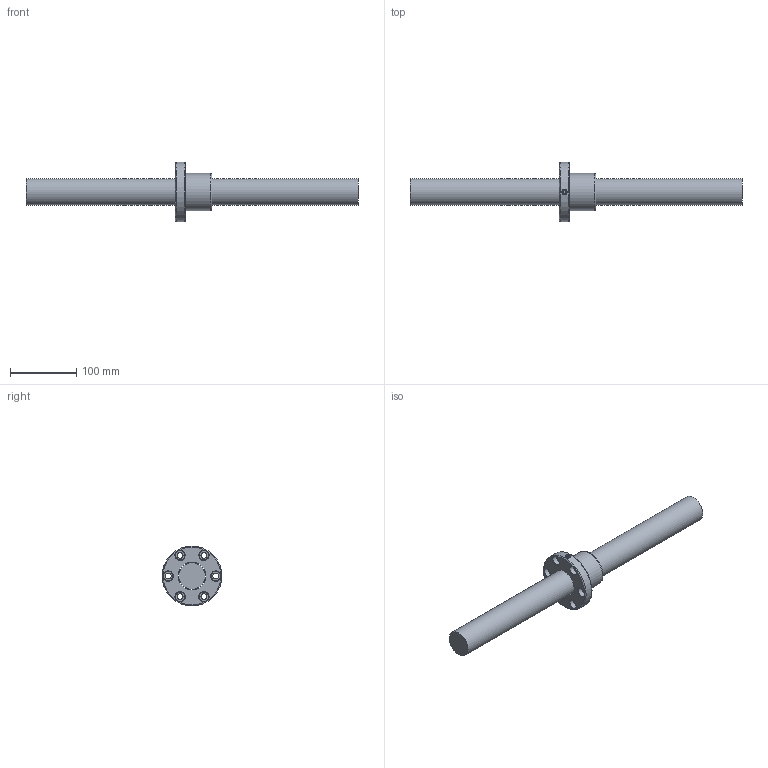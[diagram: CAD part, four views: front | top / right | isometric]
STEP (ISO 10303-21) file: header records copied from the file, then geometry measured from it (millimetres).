
FILE_DESCRIPTION (( 'STEP AP203' ), '1' );
FILE_NAME ('SFNI04005N-4.step', '2024-05-16T01:22:07', ( '' ), ( '' ), 'SwSTEP 2.0', 'SolidWorks 2022', '' );
FILE_SCHEMA (( 'CONFIG_CONTROL_DESIGN' ));
Length unit declared in the file: millimetre
Products named in the file (1): SFNI04005N-4
Bounding box: 500 x 90 x 90 mm (x, y, z)
Volume: 733997.5 mm3; surface area: 96162 mm2
Topology: 2 solids, 2 shells, 56 faces, 140 edges, 88 vertices
Faces by surface type: cylinder 24, cone 13, plane 12, bspline 4, torus 3
Full cylindrical faces by diameter (mm): 4 x1, 7 x6, 9 x6, 14 x6, 40 x1, 42.1 x1, 56 x1, 90 x1
Entity records: 3118 total; most frequent: CARTESIAN_POINT 2071, DIRECTION 204, ORIENTED_EDGE 148, EDGE_LOOP 102, AXIS2_PLACEMENT_3D 101, EDGE_CURVE 74, FACE_OUTER_BOUND 72, VERTEX_POINT 64
